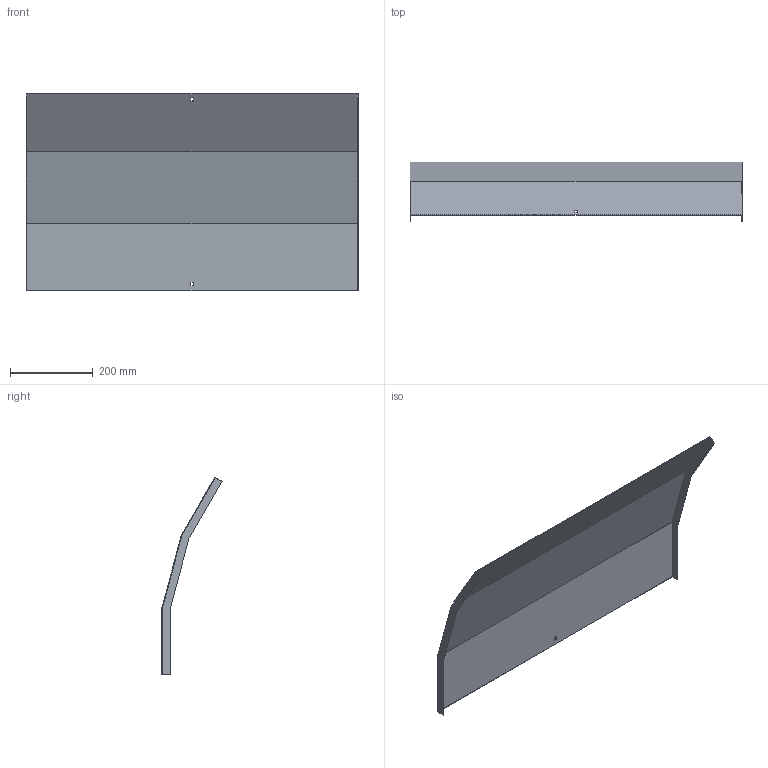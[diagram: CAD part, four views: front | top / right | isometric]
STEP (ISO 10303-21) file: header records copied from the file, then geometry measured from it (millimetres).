
FILE_DESCRIPTION (( 'STEP AP214' ), '1' );
FILE_NAME ('A2_35N3C800.step', '2025-02-21T10:30:29', ( '' ), ( '' ), 'SwSTEP 2.0', 'SolidWorks 2023', '' );
FILE_SCHEMA (( 'AUTOMOTIVE_DESIGN' ));
Length unit declared in the file: millimetre
Products named in the file (1): A2_35N3C800
Bounding box: 803 x 145.29 x 477.6 mm (x, y, z)
Volume: 636005.2 mm3; surface area: 852106.1 mm2
Topology: 1 solids, 1 shells, 26 faces, 72 edges, 48 vertices
Faces by surface type: plane 26
Entity records: 847 total; most frequent: CARTESIAN_POINT 147, ORIENTED_EDGE 144, DIRECTION 126, LINE 72, VECTOR 72, EDGE_CURVE 72, VERTEX_POINT 48, EDGE_LOOP 30
